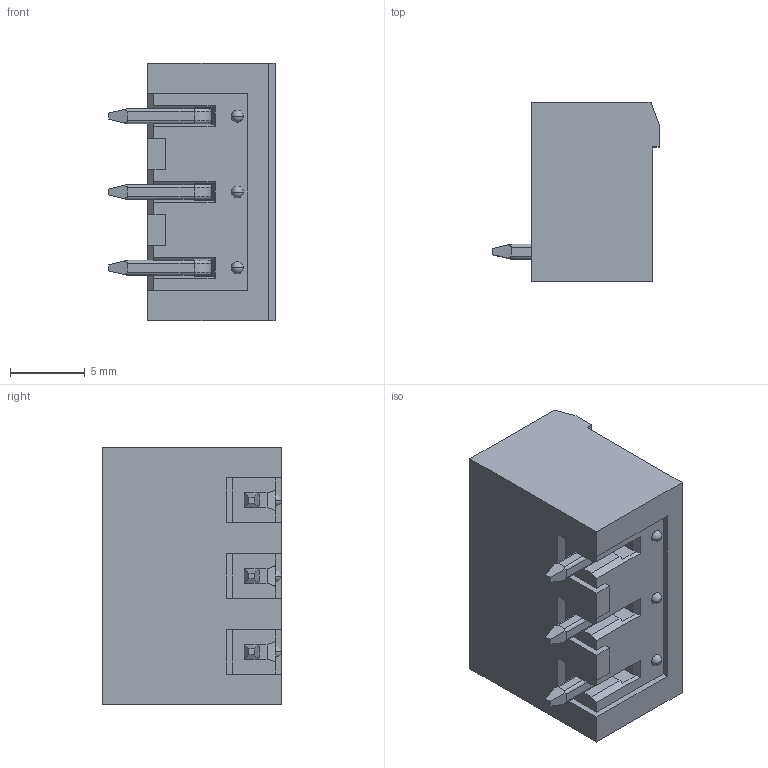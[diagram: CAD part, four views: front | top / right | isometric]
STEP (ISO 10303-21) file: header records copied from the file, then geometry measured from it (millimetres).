
FILE_DESCRIPTION((''),'2;1');
FILE_NAME('3PIN','2020-05-06T',('renkang.li'),(''),'CREO PARAMETRIC BY PTC INC, 2016260','CREO PARAMETRIC BY PTC INC, 2016260','');
FILE_SCHEMA(('CONFIG_CONTROL_DESIGN'));
Length unit declared in the file: millimetre
Products named in the file (1): 3PIN
Bounding box: 11.15 x 12 x 17.24 mm (x, y, z)
Volume: 772.4 mm3; surface area: 1642.3 mm2
Topology: 1 solids, 1 shells, 330 faces, 1013 edges, 643 vertices
Faces by surface type: plane 240, cylinder 59, torus 18, cone 7, sphere 6
Entity records: 12210 total; most frequent: CARTESIAN_POINT 3122, ORIENTED_EDGE 2014, DIRECTION 1780, EDGE_CURVE 1007, VECTOR 738, LINE 738, VERTEX_POINT 643, AXIS2_PLACEMENT_3D 521
